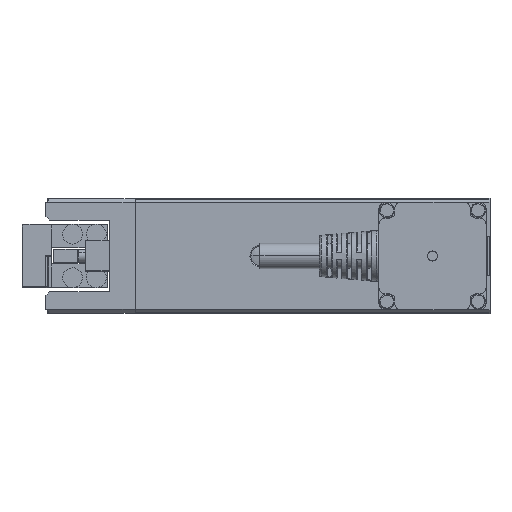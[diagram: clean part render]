
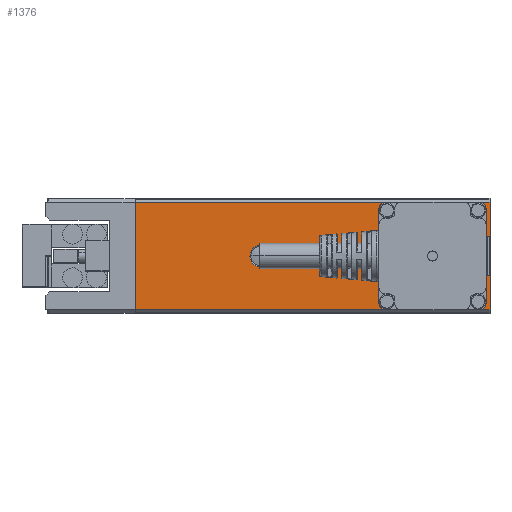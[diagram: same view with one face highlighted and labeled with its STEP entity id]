
A CAD part, left-side view. The second image highlights one B-rep face of the part: STEP entity #1376.
In plain terms, the highlighted planar face has unit normal (-1, 0, 0) as drawn and (1, 0, 0) by its records, which use the part's own axes.
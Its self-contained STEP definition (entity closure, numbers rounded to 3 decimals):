
#353 = DIRECTION ( 'NONE',  ( 0., 0.707, -0.707 ) ) ;
#383 = VERTEX_POINT ( 'NONE', #9667 ) ;
#696 = VERTEX_POINT ( 'NONE', #26337 ) ;
#738 = EDGE_CURVE ( 'NONE', #21042, #15433, #20783, .T. ) ;
#1119 = AXIS2_PLACEMENT_3D ( 'NONE', #23857, #28763, #5713 ) ;
#1208 = EDGE_CURVE ( 'NONE', #14470, #23384, #5442, .T. ) ;
#1259 = CARTESIAN_POINT ( 'NONE',  ( 27.5, 1.7, -5. ) ) ;
#1376 = ADVANCED_FACE ( 'NONE', ( #1860, #10912 ), #17327, .F. ) ;
#1860 = FACE_BOUND ( 'NONE', #2408, .T. ) ;
#1914 = ORIENTED_EDGE ( 'NONE', *, *, #6449, .T. ) ;
#2408 = EDGE_LOOP ( 'NONE', ( #20421, #5720 ) ) ;
#2871 = LINE ( 'NONE', #22939, #11076 ) ;
#3067 = ORIENTED_EDGE ( 'NONE', *, *, #21297, .T. ) ;
#3075 = DIRECTION ( 'NONE',  ( 0., -1., 0. ) ) ;
#3401 = VECTOR ( 'NONE', #18651, 1000. ) ;
#3492 = CARTESIAN_POINT ( 'NONE',  ( 27.5, 0., -14.5 ) ) ;
#3731 = ORIENTED_EDGE ( 'NONE', *, *, #1208, .T. ) ;
#3793 = CARTESIAN_POINT ( 'NONE',  ( 27.5, 72., -14.5 ) ) ;
#3799 = CARTESIAN_POINT ( 'NONE',  ( 27.5, 1.7, 5. ) ) ;
#4413 = DIRECTION ( 'NONE',  ( -1., 0., 0. ) ) ;
#4842 = ORIENTED_EDGE ( 'NONE', *, *, #27489, .T. ) ;
#4889 = DIRECTION ( 'NONE',  ( 0., 1., 0. ) ) ;
#5284 = VERTEX_POINT ( 'NONE', #9381 ) ;
#5442 = LINE ( 'NONE', #19256, #5710 ) ;
#5710 = VECTOR ( 'NONE', #21193, 1000. ) ;
#5713 = DIRECTION ( 'NONE',  ( 0., 0., 1. ) ) ;
#5720 = ORIENTED_EDGE ( 'NONE', *, *, #6183, .T. ) ;
#6183 = EDGE_CURVE ( 'NONE', #383, #696, #11543, .T. ) ;
#6266 = CARTESIAN_POINT ( 'NONE',  ( 27.5, 1.7, 5. ) ) ;
#6449 = EDGE_CURVE ( 'NONE', #23384, #21042, #2871, .T. ) ;
#6780 = CARTESIAN_POINT ( 'NONE',  ( 27.5, 57.8, 0. ) ) ;
#7104 = CARTESIAN_POINT ( 'NONE',  ( 27.5, 0., 5. ) ) ;
#8171 = CARTESIAN_POINT ( 'NONE',  ( 27.5, 0., -5.1 ) ) ;
#8229 = LINE ( 'NONE', #3492, #9211 ) ;
#8769 = EDGE_CURVE ( 'NONE', #696, #383, #18318, .T. ) ;
#8895 = CARTESIAN_POINT ( 'NONE',  ( 27.5, 72., -13.5 ) ) ;
#9021 = VERTEX_POINT ( 'NONE', #28334 ) ;
#9033 = VERTEX_POINT ( 'NONE', #6266 ) ;
#9211 = VECTOR ( 'NONE', #10746, 1000. ) ;
#9288 = AXIS2_PLACEMENT_3D ( 'NONE', #6780, #4413, #24938 ) ;
#9381 = CARTESIAN_POINT ( 'NONE',  ( 27.5, 0., 13.5 ) ) ;
#9502 = ORIENTED_EDGE ( 'NONE', *, *, #19429, .F. ) ;
#9572 = LINE ( 'NONE', #25214, #3401 ) ;
#9624 = VECTOR ( 'NONE', #18555, 1000. ) ;
#9667 = CARTESIAN_POINT ( 'NONE',  ( 27.5, 57.8, 2.75 ) ) ;
#10389 = VERTEX_POINT ( 'NONE', #18130 ) ;
#10746 = DIRECTION ( 'NONE',  ( 0., 0., -1. ) ) ;
#10912 = FACE_OUTER_BOUND ( 'NONE', #19415, .T. ) ;
#11076 = VECTOR ( 'NONE', #11781, 1000. ) ;
#11543 = CIRCLE ( 'NONE', #1119, 2.75 ) ;
#11781 = DIRECTION ( 'NONE',  ( 0., 0., -1. ) ) ;
#12554 = ORIENTED_EDGE ( 'NONE', *, *, #24967, .T. ) ;
#12901 = ORIENTED_EDGE ( 'NONE', *, *, #28666, .T. ) ;
#13396 = VECTOR ( 'NONE', #15241, 1000. ) ;
#14470 = VERTEX_POINT ( 'NONE', #29223 ) ;
#14531 = LINE ( 'NONE', #7104, #9624 ) ;
#15023 = CARTESIAN_POINT ( 'NONE',  ( 27.5, 0.1, 5. ) ) ;
#15241 = DIRECTION ( 'NONE',  ( 0., 0., 1. ) ) ;
#15433 = VERTEX_POINT ( 'NONE', #28211 ) ;
#16353 = VERTEX_POINT ( 'NONE', #15023 ) ;
#17327 = PLANE ( 'NONE',  #26566 ) ;
#17811 = ORIENTED_EDGE ( 'NONE', *, *, #21006, .T. ) ;
#18130 = CARTESIAN_POINT ( 'NONE',  ( 27.5, 0., 5.1 ) ) ;
#18318 = CIRCLE ( 'NONE', #9288, 2.75 ) ;
#18555 = DIRECTION ( 'NONE',  ( 0., 1., 0. ) ) ;
#18651 = DIRECTION ( 'NONE',  ( 0., 0., -1. ) ) ;
#18807 = LINE ( 'NONE', #27900, #28907 ) ;
#19256 = CARTESIAN_POINT ( 'NONE',  ( 27.5, 0.1, -5. ) ) ;
#19415 = EDGE_LOOP ( 'NONE', ( #9502, #12901, #3731, #1914, #26150, #20961, #3067, #4842, #12554, #17811 ) ) ;
#19429 = EDGE_CURVE ( 'NONE', #23085, #9033, #26563, .T. ) ;
#20421 = ORIENTED_EDGE ( 'NONE', *, *, #8769, .T. ) ;
#20783 = LINE ( 'NONE', #8895, #21726 ) ;
#20902 = LINE ( 'NONE', #23436, #23716 ) ;
#20961 = ORIENTED_EDGE ( 'NONE', *, *, #24425, .F. ) ;
#21006 = EDGE_CURVE ( 'NONE', #16353, #9033, #14531, .T. ) ;
#21042 = VERTEX_POINT ( 'NONE', #21373 ) ;
#21193 = DIRECTION ( 'NONE',  ( 0., -0.707, -0.707 ) ) ;
#21216 = VECTOR ( 'NONE', #353, 1000. ) ;
#21297 = EDGE_CURVE ( 'NONE', #9021, #5284, #20902, .T. ) ;
#21373 = CARTESIAN_POINT ( 'NONE',  ( 27.5, 0., -13.5 ) ) ;
#21726 = VECTOR ( 'NONE', #4889, 1000. ) ;
#21768 = DIRECTION ( 'NONE',  ( 0., 1., 0. ) ) ;
#22844 = DIRECTION ( 'NONE',  ( 0., -1., 0. ) ) ;
#22939 = CARTESIAN_POINT ( 'NONE',  ( 27.5, 0., -14.5 ) ) ;
#23085 = VERTEX_POINT ( 'NONE', #1259 ) ;
#23086 = CARTESIAN_POINT ( 'NONE',  ( 27.5, 0., 5.1 ) ) ;
#23384 = VERTEX_POINT ( 'NONE', #8171 ) ;
#23436 = CARTESIAN_POINT ( 'NONE',  ( 27.5, 72., 13.5 ) ) ;
#23716 = VECTOR ( 'NONE', #22844, 1000. ) ;
#23857 = CARTESIAN_POINT ( 'NONE',  ( 27.5, 57.8, 0. ) ) ;
#24425 = EDGE_CURVE ( 'NONE', #9021, #15433, #9572, .T. ) ;
#24938 = DIRECTION ( 'NONE',  ( 0., 0., 1. ) ) ;
#24967 = EDGE_CURVE ( 'NONE', #10389, #16353, #27412, .T. ) ;
#25214 = CARTESIAN_POINT ( 'NONE',  ( 27.5, 89.5, -14.5 ) ) ;
#26150 = ORIENTED_EDGE ( 'NONE', *, *, #738, .T. ) ;
#26337 = CARTESIAN_POINT ( 'NONE',  ( 27.5, 57.8, -2.75 ) ) ;
#26563 = LINE ( 'NONE', #3799, #13396 ) ;
#26566 = AXIS2_PLACEMENT_3D ( 'NONE', #3793, #28786, #21768 ) ;
#27412 = LINE ( 'NONE', #23086, #21216 ) ;
#27489 = EDGE_CURVE ( 'NONE', #5284, #10389, #8229, .T. ) ;
#27900 = CARTESIAN_POINT ( 'NONE',  ( 27.5, 0., -5. ) ) ;
#28211 = CARTESIAN_POINT ( 'NONE',  ( 27.5, 89.5, -13.5 ) ) ;
#28334 = CARTESIAN_POINT ( 'NONE',  ( 27.5, 89.5, 13.5 ) ) ;
#28666 = EDGE_CURVE ( 'NONE', #23085, #14470, #18807, .T. ) ;
#28763 = DIRECTION ( 'NONE',  ( -1., 0., 0. ) ) ;
#28786 = DIRECTION ( 'NONE',  ( -1., 0., 0. ) ) ;
#28907 = VECTOR ( 'NONE', #3075, 1000. ) ;
#29223 = CARTESIAN_POINT ( 'NONE',  ( 27.5, 0.1, -5. ) ) ;
